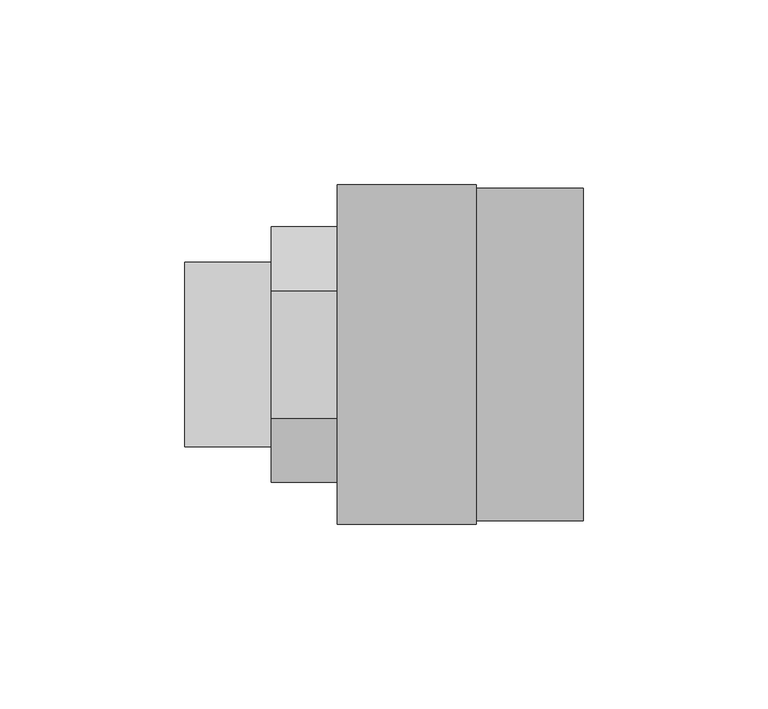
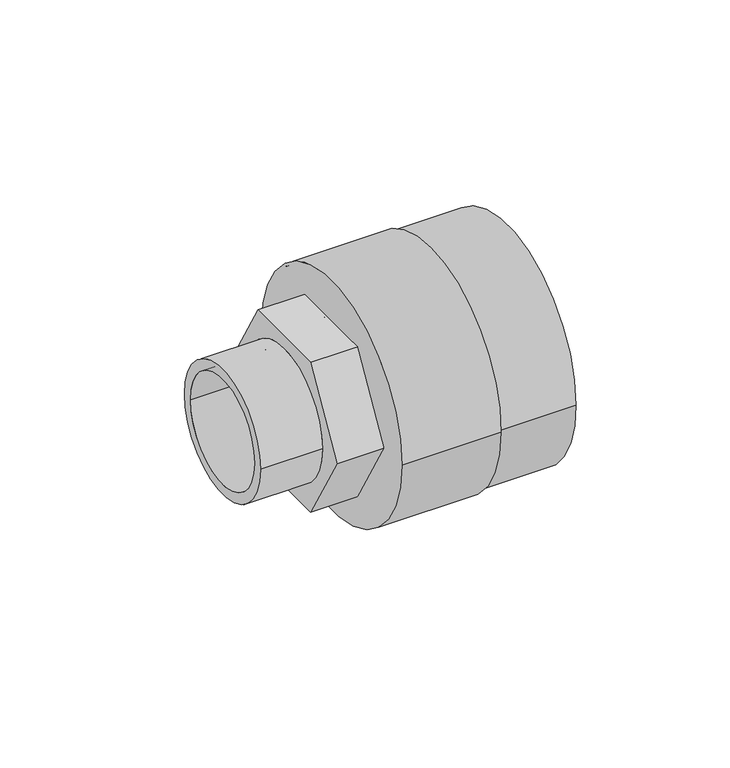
"""IFC4 building model written with IfcOpenShell, lengths in millimetres: pipe fitting geometry, NIRON RED termofusion roscado enlace rosca macho hexagonal : Estándar."""

from ifc_helpers import new_model, si_unit, point, frame, origin, origin_2d, place, context, project, spatial, polyline, circle_curve, trimmed, segment, composite_curve, outline, extrude, source, transform, mapped, element, save
from ifc_brep_helpers import plane_surface, cylinder_surface, revolved_surface, advanced_brep


def pipe_fitting_f2157478(model_context):
    return source(origin(), model_context, "Body", "SolidModel", [
        extrude(outline(composite_curve([segment(trimmed(circle_curve(origin_2d(), 25.0), [point((-25.0, 0.0))], [point((25.0, 0.0))], False, "CARTESIAN"), True, "CONTINUOUS"), segment(trimmed(circle_curve(origin_2d(), 25.0), [point((25.0, 0.0))], [point((-25.0, 0.0))], False, "CARTESIAN"), True, "CONTINUOUS")], self_intersect=False), holes=[composite_curve([segment(trimmed(circle_curve(origin_2d(), 21.0), [point((-21.0, 0.0))], [point((21.0, 0.0))], True, "CARTESIAN"), True, "CONTINUOUS"), segment(trimmed(circle_curve(origin_2d(), 21.0), [point((21.0, 0.0))], [point((-21.0, 0.0))], True, "CARTESIAN"), True, "CONTINUOUS")], self_intersect=False)]), frame((-23.4, 0.0, 0.0), z_axis=(1.0, 0.0, 0.0), x_axis=(0.0, 1.0, 0.0)), (0.0, 0.0, 1.0), 23.4),
        advanced_brep(
        [(55.6, 46.0, 0.0), (55.6, -46.0, 0.0), (18.0, 46.0, 0.0), (18.0, -46.0, 0.0), (18.0, -25.0, 0.0), (18.0, 25.0, 0.0), (23.7, 25.0, 0.0), (23.7, -25.0, 0.0)],
        [
            (0, 1, circle_curve(frame((55.6, 0.0, 0.0), z_axis=(1.0, 0.0, 0.0), x_axis=(0.0, -1.0, 0.0)), 46.0)),
            (1, 0, circle_curve(frame((55.6, 0.0, 0.0), z_axis=(1.0, 0.0, 0.0), x_axis=(0.0, -1.0, 0.0)), 46.0)),
            (2, 3, circle_curve(frame((18.0, 0.0, 0.0), z_axis=(-1.0, 0.0, 0.0), x_axis=(0.0, -1.0, 0.0)), 46.0)),
            (3, 2, circle_curve(frame((18.0, 0.0, 0.0), z_axis=(-1.0, 0.0, 0.0), x_axis=(0.0, -1.0, 0.0)), 46.0)),
            (4, 5, circle_curve(frame((18.0, 0.0, 0.0), z_axis=(1.0, 0.0, 0.0), x_axis=(0.0, -1.0, 0.0)), 25.0)),
            (5, 4, circle_curve(frame((18.0, 0.0, 0.0), z_axis=(1.0, 0.0, 0.0), x_axis=(0.0, -1.0, 0.0)), 25.0)),
            (1, 3),
            (2, 0),
            (6, 7, circle_curve(frame((23.7, 0.0, 0.0), z_axis=(-1.0, 0.0, 0.0), x_axis=(0.0, -1.0, 0.0)), 25.0)),
            (7, 6, circle_curve(frame((23.7, 0.0, 0.0), z_axis=(-1.0, 0.0, 0.0), x_axis=(0.0, -1.0, 0.0)), 25.0)),
            (6, 5),
            (4, 7),
        ],
        [
            plane_surface(frame((55.6, -46.0, 0.0), z_axis=(1.0, 0.0, 0.0), x_axis=(0.0, 0.0, -1.0))),
            plane_surface(frame((18.0, -46.0, 0.0), z_axis=(-1.0, 0.0, 0.0), x_axis=(0.0, 0.0, 1.0))),
            cylinder_surface(frame((55.6, 0.0, 0.0), z_axis=(-1.0, 0.0, 0.0), x_axis=(0.0, -1.0, 0.0)), 46.0),
            plane_surface(frame((23.7, -25.0, 0.0), z_axis=(-1.0, 0.0, 0.0), x_axis=(0.0, 0.0, -1.0))),
            revolved_surface(polyline([(18.0, -25.0, 0.0), (23.7, -25.0, 0.0)]), (23.7, 0.0, 0.0), (-1.0, 0.0, 0.0)),
        ],
        [
            (0, [[1, 2]]),
            (1, [[3, 4], [5, 6]]),
            (2, [[-2, 7, -3, 8]]),
            (2, [[-1, -8, -4, -7]]),
            (3, [[9, 10]]),
            (4, [[-9, 11, -5, 12]]),
            (4, [[-10, -12, -6, -11]]),
        ],
    ),
        advanced_brep(
        [(18.0, 45.0, 0.0), (18.0, -45.0, 0.0), (18.0, -25.0, 0.0), (18.0, 25.0, 0.0), (84.6, 45.0, 0.0), (84.6, -45.0, 0.0), (23.7, 25.0, 0.0), (23.7, -25.0, 0.0)],
        [
            (0, 1, circle_curve(frame((18.0, 0.0, 0.0), z_axis=(-1.0, 0.0, 0.0), x_axis=(0.0, -1.0, 0.0)), 45.0)),
            (1, 0, circle_curve(frame((18.0, 0.0, 0.0), z_axis=(-1.0, 0.0, 0.0), x_axis=(0.0, -1.0, 0.0)), 45.0)),
            (2, 3, circle_curve(frame((18.0, 0.0, 0.0), z_axis=(1.0, 0.0, 0.0), x_axis=(0.0, -1.0, 0.0)), 25.0)),
            (3, 2, circle_curve(frame((18.0, 0.0, 0.0), z_axis=(1.0, 0.0, 0.0), x_axis=(0.0, -1.0, 0.0)), 25.0)),
            (4, 5, circle_curve(frame((84.6, 0.0, 0.0), z_axis=(1.0, 0.0, 0.0), x_axis=(0.0, -1.0, 0.0)), 45.0)),
            (5, 4, circle_curve(frame((84.6, 0.0, 0.0), z_axis=(1.0, 0.0, 0.0), x_axis=(0.0, -1.0, 0.0)), 45.0)),
            (0, 4),
            (5, 1),
            (6, 7, circle_curve(frame((23.7, 0.0, 0.0), z_axis=(-1.0, 0.0, 0.0), x_axis=(0.0, -1.0, 0.0)), 25.0)),
            (7, 6, circle_curve(frame((23.7, 0.0, 0.0), z_axis=(-1.0, 0.0, 0.0), x_axis=(0.0, -1.0, 0.0)), 25.0)),
            (6, 3),
            (2, 7),
        ],
        [
            plane_surface(frame((18.0, -45.0, 0.0), z_axis=(-1.0, 0.0, 0.0), x_axis=(0.0, 0.0, 1.0))),
            plane_surface(frame((84.6, -45.0, 0.0), z_axis=(1.0, 0.0, 0.0), x_axis=(0.0, 0.0, -1.0))),
            cylinder_surface(frame((84.6, 0.0, 0.0), z_axis=(-1.0, 0.0, 0.0), x_axis=(0.0, -1.0, 0.0)), 45.0),
            plane_surface(frame((23.7, -25.0, 0.0), z_axis=(-1.0, 0.0, 0.0), x_axis=(0.0, 0.0, -1.0))),
            revolved_surface(polyline([(18.0, -25.0, 0.0), (23.7, -25.0, 0.0)]), (23.7, 0.0, 0.0), (-1.0, 0.0, 0.0)),
        ],
        [
            (0, [[1, 2], [3, 4]]),
            (1, [[5, 6]]),
            (2, [[-1, 7, -6, 8]]),
            (2, [[-2, -8, -5, -7]]),
            (3, [[9, 10]]),
            (4, [[-9, 11, -3, 12]]),
            (4, [[-10, -12, -4, -11]]),
        ],
    ),
        advanced_brep(
        [(45.0, -17.3205081, -30.0), (45.0, 17.3205081, -30.0), (45.0, 34.6410162, 0.0), (45.0, 17.3205081, 30.0), (45.0, -17.3205081, 30.0), (45.0, -34.6410162, 0.0), (0.0, -17.3205081, -30.0), (0.0, -34.6410162, 0.0), (0.0, -17.3205081, 30.0), (0.0, 17.3205081, 30.0), (0.0, 34.6410162, 0.0), (0.0, 17.3205081, -30.0), (0.0, -25.0, 0.0), (0.0, 25.0, 0.0), (23.7, 25.0, 0.0), (23.7, -25.0, 0.0)],
        [
            (0, 1),
            (1, 2),
            (2, 3),
            (3, 4),
            (4, 5),
            (5, 0),
            (6, 7),
            (7, 8),
            (8, 9),
            (9, 10),
            (10, 11),
            (11, 6),
            (12, 13, circle_curve(frame((0.0, 0.0, 0.0), z_axis=(1.0, 0.0, 0.0), x_axis=(0.0, -1.0, 0.0)), 25.0)),
            (13, 12, circle_curve(frame((0.0, 0.0, 0.0), z_axis=(1.0, 0.0, 0.0), x_axis=(0.0, -1.0, 0.0)), 25.0)),
            (0, 6),
            (11, 1),
            (10, 2),
            (9, 3),
            (8, 4),
            (7, 5),
            (14, 15, circle_curve(frame((23.7, 0.0, 0.0), z_axis=(-1.0, 0.0, 0.0), x_axis=(0.0, -1.0, 0.0)), 25.0)),
            (15, 14, circle_curve(frame((23.7, 0.0, 0.0), z_axis=(-1.0, 0.0, 0.0), x_axis=(0.0, -1.0, 0.0)), 25.0)),
            (14, 13),
            (12, 15),
        ],
        [
            plane_surface(frame((45.0, 0.0, 0.0), z_axis=(1.0, 0.0, 0.0), x_axis=(0.0, 0.0, 1.0))),
            plane_surface(frame((0.0, 0.0, 0.0), z_axis=(-1.0, 0.0, 0.0), x_axis=(0.0, 0.0, 1.0))),
            plane_surface(frame((45.0, -17.3205081, -30.0), z_axis=(0.0, 0.0, -1.0), x_axis=(-1.0, 0.0, 0.0))),
            plane_surface(frame((45.0, 17.3205081, -30.0), z_axis=(0.0, 0.8660254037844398, -0.49999999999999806), x_axis=(-1.0, 0.0, 0.0))),
            plane_surface(frame((45.0, 34.6410162, 0.0), z_axis=(0.0, 0.866025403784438, 0.500000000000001), x_axis=(-1.0, 0.0, 0.0))),
            plane_surface(frame((45.0, 17.3205081, 30.0), z_axis=(0.0, 0.0, 1.0), x_axis=(-1.0, 0.0, 0.0))),
            plane_surface(frame((45.0, -17.3205081, 30.0), z_axis=(0.0, -0.8660254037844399, 0.49999999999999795), x_axis=(-1.0, 0.0, 0.0))),
            plane_surface(frame((45.0, -34.6410162, 0.0), z_axis=(0.0, -0.8660254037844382, -0.5000000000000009), x_axis=(-1.0, 0.0, 0.0))),
            plane_surface(frame((23.7, -25.0, 0.0), z_axis=(-1.0, 0.0, 0.0), x_axis=(0.0, 0.0, -1.0))),
            revolved_surface(polyline([(0.0, -25.0, 0.0), (23.7, -25.0, 0.0)]), (23.7, 0.0, 0.0), (-1.0, 0.0, 0.0)),
        ],
        [
            (0, [[1, 2, 3, 4, 5, 6]]),
            (1, [[7, 8, 9, 10, 11, 12], [13, 14]]),
            (2, [[-1, 15, -12, 16]]),
            (3, [[-2, -16, -11, 17]]),
            (4, [[-3, -17, -10, 18]]),
            (5, [[-4, -18, -9, 19]]),
            (6, [[-5, -19, -8, 20]]),
            (7, [[-6, -20, -7, -15]]),
            (8, [[21, 22]]),
            (9, [[-21, 23, -13, 24]]),
            (9, [[-22, -24, -14, -23]]),
        ],
    ),
    ])


if __name__ == "__main__":
    model = new_model("IFC4")
    model_context = context("Model", 3, world=origin())
    ifc_project = project(units=[si_unit("LENGTHUNIT", "METRE", prefix="MILLI")], contexts=[model_context])
    site = spatial("IfcSite", under=ifc_project)
    building = spatial("IfcBuilding", under=site)
    placement = place(None, origin())
    pipe_fitting_shape = pipe_fitting_f2157478(model_context)
    element("IfcPipeFitting", 1, ObjectType="NIRON RED termofusion roscado enlace rosca macho hexagonal : Estándar", at=placement, inside=building, context=model_context, shape_type="MappedRepresentation", body=[
        mapped(pipe_fitting_shape, transform((0.0, 0.0, 0.0), x_axis=(1.0, 0.0, 0.0), y_axis=(0.0, 1.0, 0.0), z_axis=(0.0, 0.0, 1.0))),
    ])
    save(model, "model.ifc")
